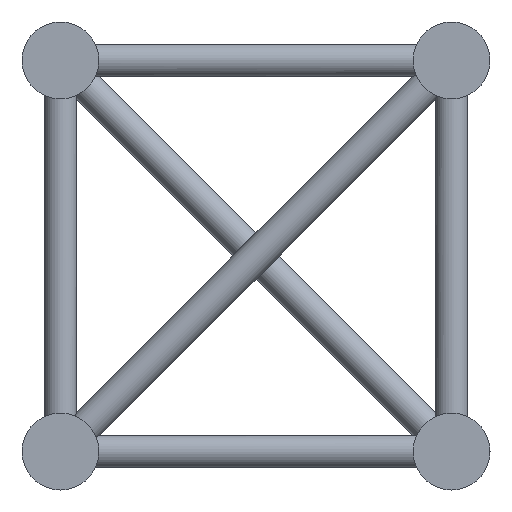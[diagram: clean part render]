
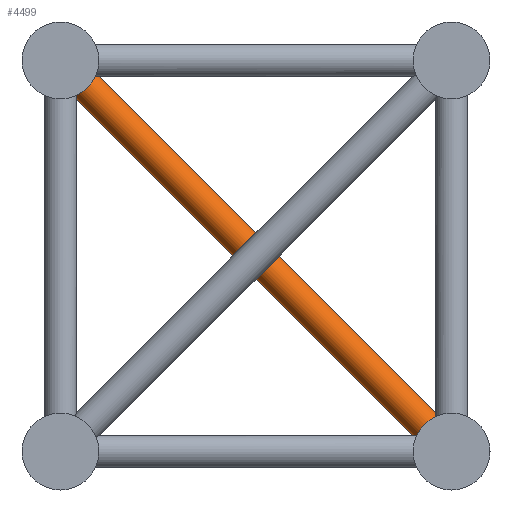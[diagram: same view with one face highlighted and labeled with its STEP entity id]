
A CAD part, left-side view. The second image highlights one B-rep face of the part: STEP entity #4499.
In plain terms, the highlighted cylindrical face has radius 12.5 mm (diameter 25 mm), a full revolution.
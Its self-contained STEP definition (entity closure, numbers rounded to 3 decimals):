
#102=FACE_BOUND('',#978,.T.);
#371=B_SPLINE_CURVE_WITH_KNOTS('',3,(#6363,#6364,#6365,#6366,#6367,#6368),
 .UNSPECIFIED.,.F.,.F.,(4,2,4),(5.76,5.766,5.772),
 .UNSPECIFIED.);
#372=B_SPLINE_CURVE_WITH_KNOTS('',3,(#6369,#6370,#6371,#6372,#6373,#6374),
 .UNSPECIFIED.,.F.,.F.,(4,2,4),(1.916,1.922,1.928),
 .UNSPECIFIED.);
#373=B_SPLINE_CURVE_WITH_KNOTS('',3,(#6375,#6376,#6377,#6378,#6379,#6380),
 .UNSPECIFIED.,.F.,.F.,(4,2,4),(5.76,5.766,5.772),
 .UNSPECIFIED.);
#374=B_SPLINE_CURVE_WITH_KNOTS('',3,(#6381,#6382,#6383,#6384,#6385,#6386),
 .UNSPECIFIED.,.F.,.F.,(4,2,4),(1.916,1.922,1.928),
 .UNSPECIFIED.);
#587=CYLINDRICAL_SURFACE('',#4772,12.5);
#710=FACE_OUTER_BOUND('',#977,.T.);
#977=EDGE_LOOP('',(#2943,#2944,#2945,#2946));
#978=EDGE_LOOP('',(#2947,#2948,#2949,#2950));
#1509=CIRCLE('',#4765,12.5);
#1510=CIRCLE('',#4767,12.5);
#1511=CIRCLE('',#4769,12.5);
#1512=CIRCLE('',#4771,12.5);
#1949=VERTEX_POINT('',#6343);
#1950=VERTEX_POINT('',#6344);
#1951=VERTEX_POINT('',#6348);
#1952=VERTEX_POINT('',#6349);
#1953=VERTEX_POINT('',#6353);
#1954=VERTEX_POINT('',#6354);
#1955=VERTEX_POINT('',#6358);
#1956=VERTEX_POINT('',#6359);
#2370=EDGE_CURVE('',#1949,#1950,#1509,.T.);
#2372=EDGE_CURVE('',#1951,#1952,#1510,.T.);
#2374=EDGE_CURVE('',#1953,#1954,#1511,.T.);
#2376=EDGE_CURVE('',#1955,#1956,#1512,.T.);
#2377=EDGE_CURVE('',#1952,#1949,#371,.T.);
#2378=EDGE_CURVE('',#1950,#1951,#372,.T.);
#2379=EDGE_CURVE('',#1956,#1953,#373,.T.);
#2380=EDGE_CURVE('',#1954,#1955,#374,.T.);
#2943=ORIENTED_EDGE('',*,*,#2377,.F.);
#2944=ORIENTED_EDGE('',*,*,#2372,.F.);
#2945=ORIENTED_EDGE('',*,*,#2378,.F.);
#2946=ORIENTED_EDGE('',*,*,#2370,.F.);
#2947=ORIENTED_EDGE('',*,*,#2379,.F.);
#2948=ORIENTED_EDGE('',*,*,#2376,.F.);
#2949=ORIENTED_EDGE('',*,*,#2380,.F.);
#2950=ORIENTED_EDGE('',*,*,#2374,.F.);
#4499=ADVANCED_FACE('',(#710,#102),#587,.T.);
#4765=AXIS2_PLACEMENT_3D('',#6346,#5248,#5249);
#4767=AXIS2_PLACEMENT_3D('',#6351,#5253,#5254);
#4769=AXIS2_PLACEMENT_3D('',#6356,#5258,#5259);
#4771=AXIS2_PLACEMENT_3D('',#6361,#5263,#5264);
#4772=AXIS2_PLACEMENT_3D('',#6362,#5265,#5266);
#5248=DIRECTION('center_axis',(0.,-0.707,
-0.707));
#5249=DIRECTION('ref_axis',(0.,0.707,-0.707));
#5253=DIRECTION('center_axis',(0.,-0.707,
-0.707));
#5254=DIRECTION('ref_axis',(0.,0.707,-0.707));
#5258=DIRECTION('center_axis',(0.,0.707,
0.707));
#5259=DIRECTION('ref_axis',(0.,0.707,-0.707));
#5263=DIRECTION('center_axis',(0.,0.707,
0.707));
#5264=DIRECTION('ref_axis',(0.,0.707,-0.707));
#5265=DIRECTION('center_axis',(0.,0.707,0.707));
#5266=DIRECTION('ref_axis',(0.,0.707,-0.707));
#6343=CARTESIAN_POINT('',(1987.5,17.72,-281.365));
#6344=CARTESIAN_POINT('',(2012.5,17.72,-281.365));
#6346=CARTESIAN_POINT('Origin',(2000.,17.678,-281.322));
#6348=CARTESIAN_POINT('',(2012.5,17.635,-281.28));
#6349=CARTESIAN_POINT('',(1987.5,17.635,-281.28));
#6351=CARTESIAN_POINT('Origin',(2000.,17.678,-281.322));
#6353=CARTESIAN_POINT('',(2012.5,281.365,-17.72));
#6354=CARTESIAN_POINT('',(1987.5,281.365,-17.72));
#6356=CARTESIAN_POINT('Origin',(2000.,281.322,-17.678));
#6358=CARTESIAN_POINT('',(1987.5,281.28,-17.635));
#6359=CARTESIAN_POINT('',(2012.5,281.28,-17.635));
#6361=CARTESIAN_POINT('Origin',(2000.,281.322,-17.678));
#6362=CARTESIAN_POINT('Origin',(2000.,17.678,-281.322));
#6363=CARTESIAN_POINT('Ctrl Pts',(1987.5,17.635,-281.28));
#6364=CARTESIAN_POINT('Ctrl Pts',(1987.5,17.649,-281.294));
#6365=CARTESIAN_POINT('Ctrl Pts',(1987.5,17.663,-281.308));
#6366=CARTESIAN_POINT('Ctrl Pts',(1987.5,17.692,-281.337));
#6367=CARTESIAN_POINT('Ctrl Pts',(1987.5,17.706,-281.351));
#6368=CARTESIAN_POINT('Ctrl Pts',(1987.5,17.72,-281.365));
#6369=CARTESIAN_POINT('Ctrl Pts',(2012.5,17.72,-281.365));
#6370=CARTESIAN_POINT('Ctrl Pts',(2012.5,17.706,-281.351));
#6371=CARTESIAN_POINT('Ctrl Pts',(2012.5,17.692,-281.337));
#6372=CARTESIAN_POINT('Ctrl Pts',(2012.5,17.663,-281.308));
#6373=CARTESIAN_POINT('Ctrl Pts',(2012.5,17.649,-281.294));
#6374=CARTESIAN_POINT('Ctrl Pts',(2012.5,17.635,-281.28));
#6375=CARTESIAN_POINT('Ctrl Pts',(2012.5,281.28,-17.635));
#6376=CARTESIAN_POINT('Ctrl Pts',(2012.5,281.294,-17.649));
#6377=CARTESIAN_POINT('Ctrl Pts',(2012.5,281.308,-17.663));
#6378=CARTESIAN_POINT('Ctrl Pts',(2012.5,281.337,-17.692));
#6379=CARTESIAN_POINT('Ctrl Pts',(2012.5,281.351,-17.706));
#6380=CARTESIAN_POINT('Ctrl Pts',(2012.5,281.365,-17.72));
#6381=CARTESIAN_POINT('Ctrl Pts',(1987.5,281.365,-17.72));
#6382=CARTESIAN_POINT('Ctrl Pts',(1987.5,281.351,-17.706));
#6383=CARTESIAN_POINT('Ctrl Pts',(1987.5,281.337,-17.692));
#6384=CARTESIAN_POINT('Ctrl Pts',(1987.5,281.308,-17.663));
#6385=CARTESIAN_POINT('Ctrl Pts',(1987.5,281.294,-17.649));
#6386=CARTESIAN_POINT('Ctrl Pts',(1987.5,281.28,-17.635));
